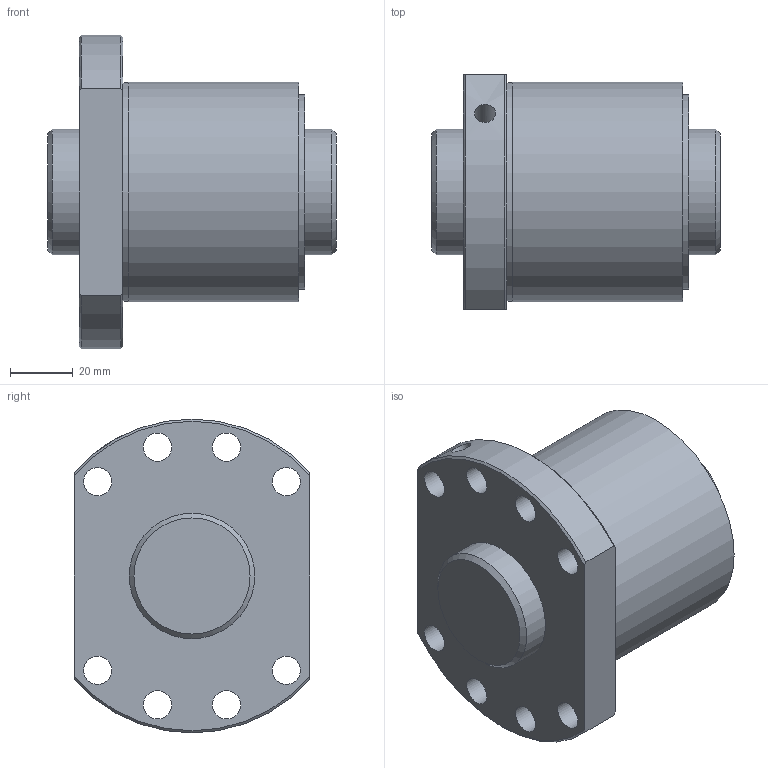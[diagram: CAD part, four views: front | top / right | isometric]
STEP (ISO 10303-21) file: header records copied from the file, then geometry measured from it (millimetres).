
FILE_DESCRIPTION(/* description */ ('STEP AP203'),/* implementation_level */ '2;1');
FILE_NAME(/* name */ 'SDA4012VA-5G0+92LC0(0G000)',/* time_stamp */ '2024-05-28T11:42:11+02:00',/* author */ ('License CC BY-ND 4.0'),/* organization */ ('CADENAS'),/* preprocessor_version */ 'ST-DEVELOPER v19.3',/* originating_system */ 'PARTsolutions',/* authorisation */ ' ');
FILE_SCHEMA (('CONFIG_CONTROL_DESIGN'));
Length unit declared in the file: millimetre
Products named in the file (3): SDA4012VA-5G0+92LC0(0G000); 000SDA4012VA-50Shaft; SDA-V serieSDA4012VA-5nut
Assembly tree (2 placements, depth 2):
  SDA4012VA-5G0+92LC0(0G000)
    000SDA4012VA-50Shaft
    SDA-V serieSDA4012VA-5nut
Bounding box: 92 x 75 x 100 mm (x, y, z)
Volume: 332307.2 mm3; surface area: 53381.4 mm2
Topology: 2 solids, 2 shells, 33 faces, 75 edges, 49 vertices
Faces by surface type: cylinder 17, plane 9, cone 7
Full cylindrical faces by diameter (mm): 5.2 x1, 6.647 x1, 9 x8, 40 x2, 62 x1, 69.6 x1, 70 x1
Entity records: 983 total; most frequent: CARTESIAN_POINT 184, DIRECTION 156, ORIENTED_EDGE 112, EDGE_LOOP 74, FACE_BOUND 74, AXIS2_PLACEMENT_3D 74, EDGE_CURVE 56, VERTEX_POINT 48
